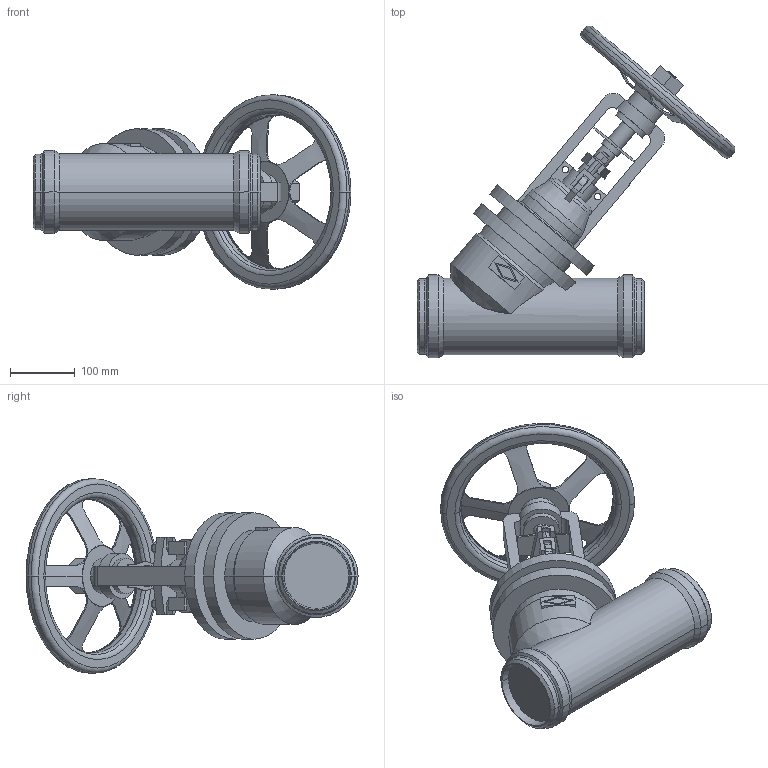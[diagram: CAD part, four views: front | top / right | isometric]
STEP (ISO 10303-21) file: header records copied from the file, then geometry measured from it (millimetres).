
FILE_DESCRIPTION(('OneSpaceDesigner STEP Export'),'2;1');
FILE_NAME('c000004354.stp','2010-05-10T10:58:00',(''),(''),'OneSpace Designer STEP processor for AP214 (Solid Model)','OneSpace Modeling 15.50B 03-Nov-2007 (C) CoCreate Software GmbH','');
FILE_SCHEMA(('AUTOMOTIVE_DESIGN { 1 0 10303 214 1 1 1 1 }'));
Length unit declared in the file: millimetre
Products named in the file (1): 1
Bounding box: 490.07 x 511.77 x 300 mm (x, y, z)
Volume: 7991010.3 mm3; surface area: 517476.9 mm2
Topology: 1 solids, 1 shells, 324 faces, 891 edges, 576 vertices
Faces by surface type: plane 142, cylinder 114, torus 38, cone 30
Entity records: 13388 total; most frequent: CARTESIAN_POINT 3200, ORIENTED_EDGE 1750, DIRECTION 1357, EDGE_CURVE 875, VERTEX_POINT 568, AXIS2_PLACEMENT_3D 472, VECTOR 413, LINE 413
